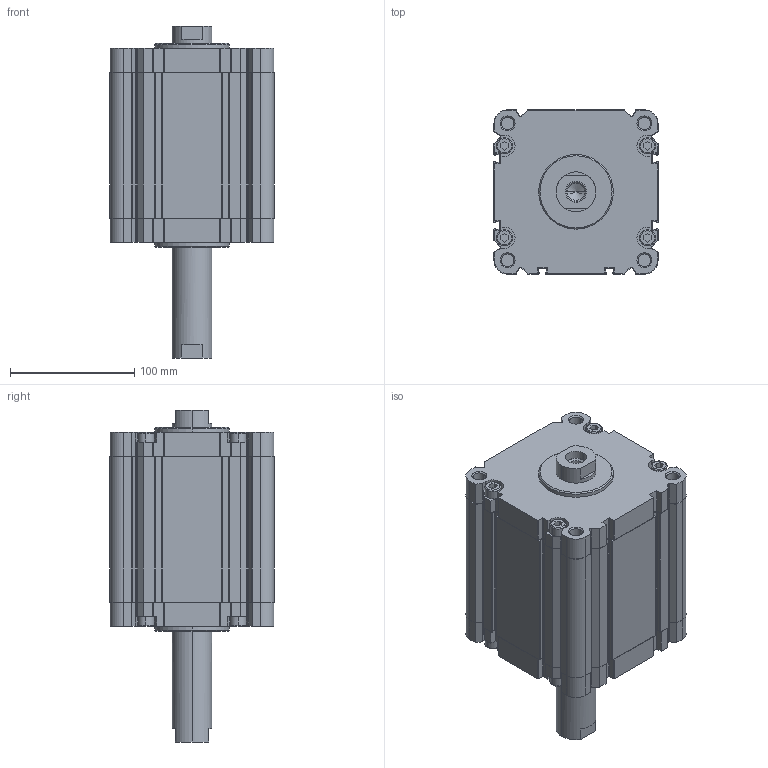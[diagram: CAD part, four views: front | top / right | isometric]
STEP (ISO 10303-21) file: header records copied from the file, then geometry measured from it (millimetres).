
FILE_DESCRIPTION (( 'STEP AP203' ), '1' );
FILE_NAME ('CDVU125-75F-P.STEP', '2020-07-24T18:45:05', ( '' ), ( '' ), 'SwSTEP 2.0', 'SolidWorks 2019', '' );
FILE_SCHEMA (( 'CONFIG_CONTROL_DESIGN' ));
Length unit declared in the file: millimetre
Products named in the file (1): CDVU125-75F-P
Bounding box: 132 x 132 x 267 mm (x, y, z)
Volume: 1841696.5 mm3; surface area: 257893.6 mm2
Topology: 2 solids, 2 shells, 666 faces, 1816 edges, 1184 vertices
Faces by surface type: plane 322, cylinder 276, cone 52, torus 16
Entity records: 21155 total; most frequent: DIRECTION 3778, CARTESIAN_POINT 3659, ORIENTED_EDGE 3616, EDGE_CURVE 1808, AXIS2_PLACEMENT_3D 1303, VERTEX_POINT 1184, LINE 1172, VECTOR 1172
